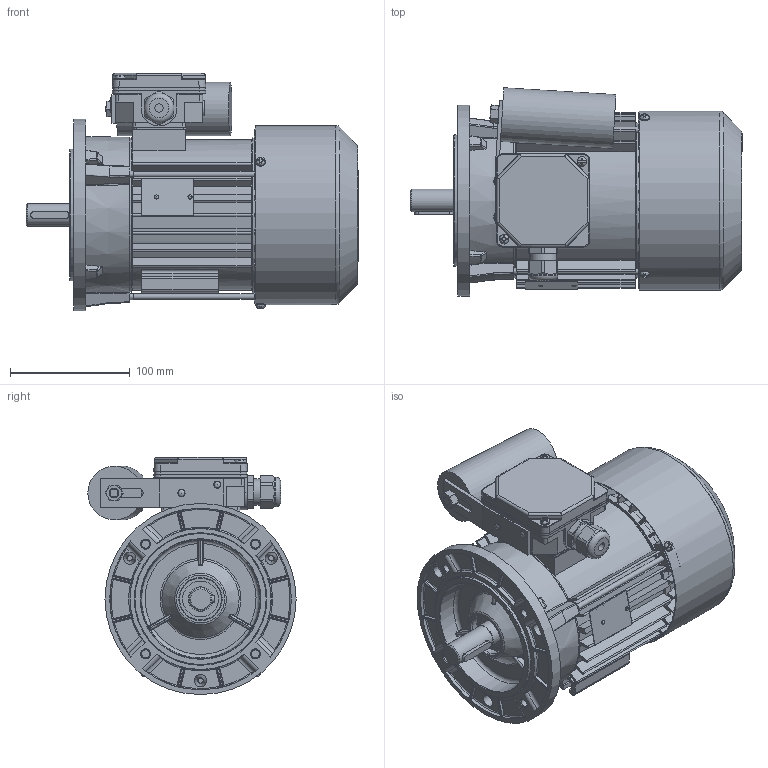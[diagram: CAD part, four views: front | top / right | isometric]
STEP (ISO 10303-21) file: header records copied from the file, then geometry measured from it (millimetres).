
FILE_DESCRIPTION( ( 'Unknown' ), '1' );
FILE_NAME( 'G:/Poczta Tk-1/STP/w.m.80/SEh80/SEKh80-.B1.stp', 'Unknown', ( 'K. Szlosek' ), ( 'BESEL S.A.' ), 'PSStep 17.0.49', 'Unknown', ' ' );
FILE_SCHEMA( ( 'AUTOMOTIVE_DESIGN { 1 0 10303 214 1 1 1 1 }' ) );
Length unit declared in the file: millimetre
Products named in the file (33): Assem1; K1-1257 Kadłub S(E,M)h80-A i B; Kondensator zb 25-31,5uF Comar; K3-2964 Osłona przewietrznika Sh80,90; K2-0860 Pokrywka skrzynki zaciskowej; K4-2320 Uszczelka nr 1 Sh71,80; K3-4616 wał standard Sh80-B; K3-6857 Tarcza łożyskowa P S(E,M)h80-B,D; Wkręt samogwintujący M4x8; Wpust A6x6x32; K2-1131 Podstawa skrzynki zaciskowej jednofazowa; K4-2820 Uszczelka nr 2 Sh71,80; Wkręt samogwintujący M4x16; K4-0898 Tulejka uszczelniająca; nakrętka M8; Nit 4x12 po skróceniu; Nitokołek A 2x6; K3-4025 Przewietrznik Sg,h80; K4-2999 Uchwyt kondensatora; Dławnica M20x1,5; Tabliczka znamionowa 32x44; Łożysko 6204; Śruba ściągająca E_M5x130; K1-1259 Tarcza kołnierzowa 80 B14_1 
Assembly tree (49 placements, depth 2):
  Assem1
    K1-1257 Kadłub S(E,M)h80-A i B
    Kondensator zb 25-31,5uF Comar
    K3-2964 Osłona przewietrznika Sh80,90
    K2-0860 Pokrywka skrzynki zaciskowej
    K4-2320 Uszczelka nr 1 Sh71,80
    K3-4616 wał standard Sh80-B
    K3-6857 Tarcza łożyskowa P S(E,M)h80-B,D
    Wkręt samogwintujący M4x8  x3
    Wpust A6x6x32
    K2-1131 Podstawa skrzynki zaciskowej jednofazowa
    K4-2820 Uszczelka nr 2 Sh71,80
    Wkręt samogwintujący M4x16  x2
    K4-0898 Tulejka uszczelniająca
    nakrętka M8
    Nit 4x12 po skróceniu  x2
    Nitokołek A 2x6  x2
    K3-4025 Przewietrznik Sg,h80
    K4-2999 Uchwyt kondensatora
    Dławnica M20x1,5
    Tabliczka znamionowa 32x44
    Łożysko 6204  x2
    Łożysko 6204  x2
    Łożysko 6204  x2
    Łożysko 6204  x2
    Łożysko 6204  x2
    Łożysko 6204  x2
    Łożysko 6204  x2
    Łożysko 6204  x2
    Łożysko 6204  x2
    Łożysko 6204  x2
    Śruba ściągająca E_M5x130  x3
    K1-1259 Tarcza kołnierzowa 80 B14_1 
Bounding box: 277.8 x 174.3 x 198.5 mm (x, y, z)
Volume: 1033618.7 mm3; surface area: 565034.6 mm2
Topology: 49 solids, 65 shells, 2965 faces, 7926 edges, 5077 vertices
Faces by surface type: plane 1289, cylinder 848, bspline 363, torus 224, cone 195, sphere 46
Full cylindrical faces by diameter (mm): 2 x2, 2.4 x2, 3 x1, 3.7 x11, 4 x8, 4.2 x3, 4.3 x2, 4.5 x3, 4.6 x3, 4.8 x4, 5 x7, 5.5 x3, 6 x2, 6.5 x1, 6.647 x1, 6.8 x4, 7 x1, 8 x10, 10 x2, 18.376 x1, 18.38 x1, 19 x1, 19.3 x1, 19.5 x1, 19.9 x1, 20 x3, 20.3 x2, 20.4 x4, 22.3 x1, 25 x1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
Entity records: 176190 total; most frequent: CARTESIAN_POINT 86662, ORIENTED_EDGE 14324, DIRECTION 13152, EDGE_CURVE 7162, AXIS2_PLACEMENT_3D 4968, VERTEX_POINT 4730, EDGE_LOOP 3310, LINE 3216
